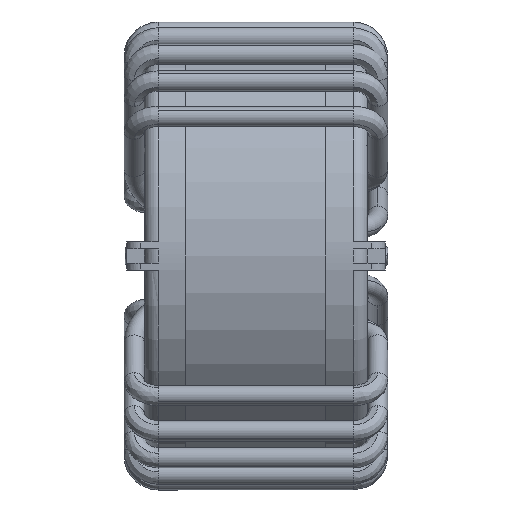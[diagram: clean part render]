
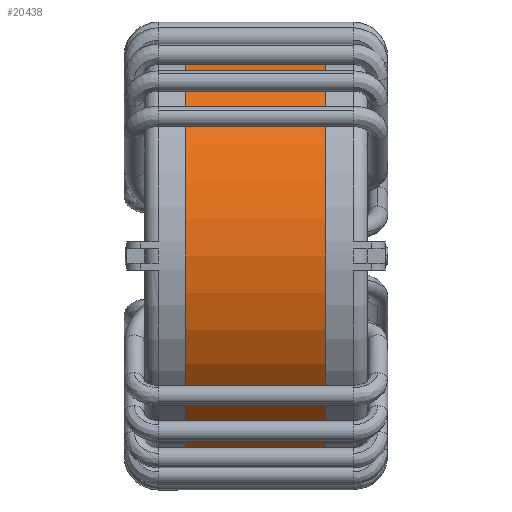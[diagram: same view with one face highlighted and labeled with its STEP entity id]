
A CAD part, left-side view. The second image highlights one B-rep face of the part: STEP entity #20438.
In plain terms, the highlighted cylindrical face has radius 15.4 mm (diameter 30.8 mm), a partial arc.
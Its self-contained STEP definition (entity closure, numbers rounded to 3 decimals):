
#3078 = EDGE_CURVE ( 'NONE', #24252, #21683, #22924, .T. ) ;
#4237 = DIRECTION ( 'NONE',  ( 0., 0., 1. ) ) ;
#4301 = AXIS2_PLACEMENT_3D ( 'NONE', #21719, #11631, #15147 ) ;
#5916 = EDGE_CURVE ( 'NONE', #13249, #21683, #13197, .T. ) ;
#6495 = LINE ( 'NONE', #24420, #12897 ) ;
#6791 = CARTESIAN_POINT ( 'NONE',  ( 0., 5., -15.4 ) ) ;
#7126 = ORIENTED_EDGE ( 'NONE', *, *, #18495, .T. ) ;
#7281 = VECTOR ( 'NONE', #7499, 1000. ) ;
#7499 = DIRECTION ( 'NONE',  ( 0., -1., 0. ) ) ;
#7557 = ORIENTED_EDGE ( 'NONE', *, *, #3078, .T. ) ;
#8161 = FACE_OUTER_BOUND ( 'NONE', #24219, .T. ) ;
#8217 = CARTESIAN_POINT ( 'NONE',  ( 0., -5., 15.4 ) ) ;
#10484 = DIRECTION ( 'NONE',  ( 0., 0., 1. ) ) ;
#11631 = DIRECTION ( 'NONE',  ( 0., -1., 0. ) ) ;
#12634 = DIRECTION ( 'NONE',  ( 0., -1., 0. ) ) ;
#12897 = VECTOR ( 'NONE', #12634, 1000. ) ;
#13197 = LINE ( 'NONE', #25846, #7281 ) ;
#13249 = VERTEX_POINT ( 'NONE', #17634 ) ;
#13291 = ORIENTED_EDGE ( 'NONE', *, *, #5916, .F. ) ;
#15147 = DIRECTION ( 'NONE',  ( 0., 0., -1. ) ) ;
#16038 = DIRECTION ( 'NONE',  ( 0., 1., 0. ) ) ;
#16627 = DIRECTION ( 'NONE',  ( 0., 1., 0. ) ) ;
#17373 = VERTEX_POINT ( 'NONE', #6791 ) ;
#17634 = CARTESIAN_POINT ( 'NONE',  ( 0., 5., 15.4 ) ) ;
#18495 = EDGE_CURVE ( 'NONE', #17373, #24252, #6495, .T. ) ;
#19953 = CYLINDRICAL_SURFACE ( 'NONE', #4301, 15.4 ) ;
#20438 = ADVANCED_FACE ( 'NONE', ( #8161 ), #19953, .T. ) ;
#20849 = CARTESIAN_POINT ( 'NONE',  ( 0., -5., 0. ) ) ;
#21434 = CARTESIAN_POINT ( 'NONE',  ( 0., 5., 0. ) ) ;
#21683 = VERTEX_POINT ( 'NONE', #8217 ) ;
#21719 = CARTESIAN_POINT ( 'NONE',  ( 0., 5., 0. ) ) ;
#22201 = CIRCLE ( 'NONE', #25855, 15.4 ) ;
#22422 = AXIS2_PLACEMENT_3D ( 'NONE', #20849, #16038, #4237 ) ;
#22924 = CIRCLE ( 'NONE', #22422, 15.4 ) ;
#23495 = CARTESIAN_POINT ( 'NONE',  ( 0., -5., -15.4 ) ) ;
#24219 = EDGE_LOOP ( 'NONE', ( #13291, #26763, #7126, #7557 ) ) ;
#24252 = VERTEX_POINT ( 'NONE', #23495 ) ;
#24420 = CARTESIAN_POINT ( 'NONE',  ( 0., 5., -15.4 ) ) ;
#25549 = EDGE_CURVE ( 'NONE', #17373, #13249, #22201, .T. ) ;
#25846 = CARTESIAN_POINT ( 'NONE',  ( 0., 5., 15.4 ) ) ;
#25855 = AXIS2_PLACEMENT_3D ( 'NONE', #21434, #16627, #10484 ) ;
#26763 = ORIENTED_EDGE ( 'NONE', *, *, #25549, .F. ) ;
